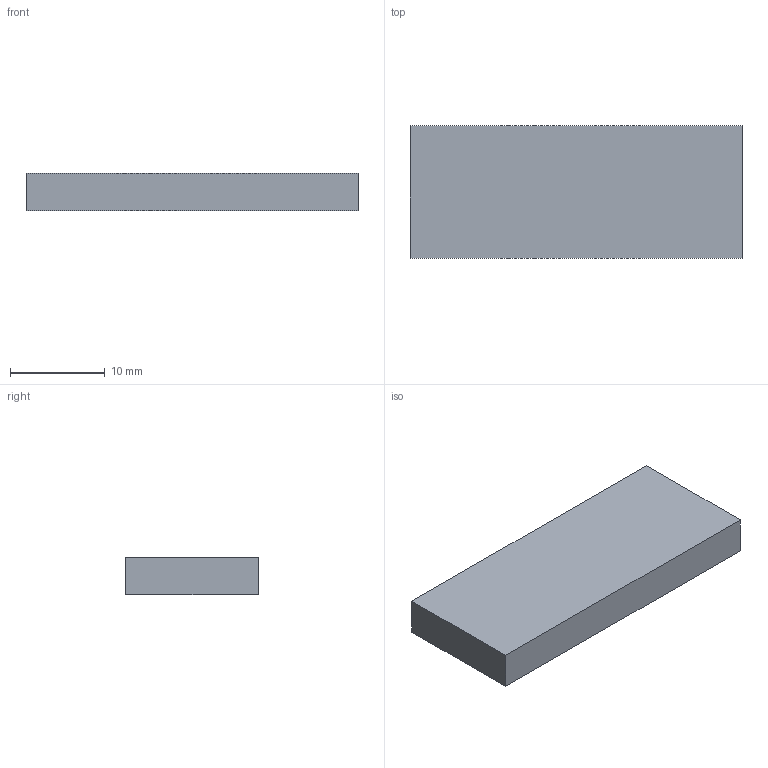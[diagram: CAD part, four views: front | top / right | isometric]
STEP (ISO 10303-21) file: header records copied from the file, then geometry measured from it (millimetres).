
FILE_DESCRIPTION (( 'STEP AP203' ), '1' );
FILE_NAME ('V2_REF_gripper_finger.STEP', '2026-09-18T10:18:41', ( '15300530775@163.com' ), ( '' ), 'SwSTEP 2.0', 'SolidWorks 2026', '' );
FILE_SCHEMA (( 'CONFIG_CONTROL_DESIGN' ));
Length unit declared in the file: millimetre
Products named in the file (1): V2_REF_gripper_finger
Bounding box: 35 x 14 x 4 mm (x, y, z)
Volume: 1960 mm3; surface area: 1372 mm2
Topology: 1 solids, 1 shells, 6 faces, 12 edges, 8 vertices
Faces by surface type: plane 6
Entity records: 233 total; most frequent: CARTESIAN_POINT 27, DIRECTION 26, ORIENTED_EDGE 24, LINE 12, EDGE_CURVE 12, VECTOR 12, VERTEX_POINT 8, PERSON_AND_ORGANIZATION 8
